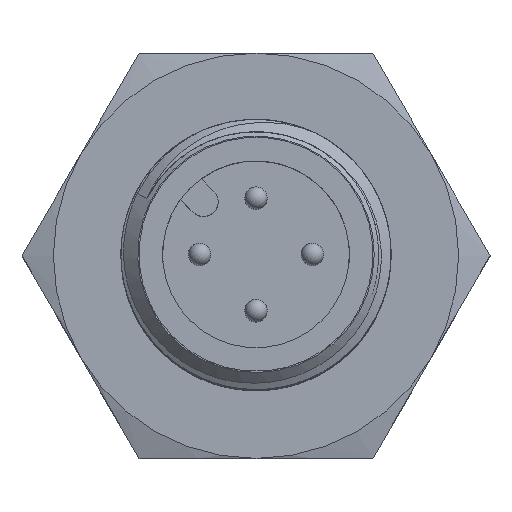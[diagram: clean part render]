
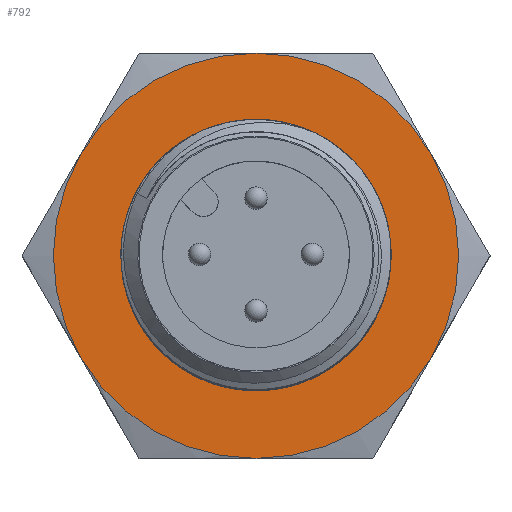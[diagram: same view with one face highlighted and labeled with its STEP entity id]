
A CAD part, top view. The second image highlights one B-rep face of the part: STEP entity #792.
In plain terms, the highlighted planar face has unit normal (0, 0, 1).
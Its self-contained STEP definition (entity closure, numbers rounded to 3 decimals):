
#792=ADVANCED_FACE('',(#1005),#978,.T.);
#978=PLANE('',#3244);
#1005=FACE_OUTER_BOUND('',#1186,.T.);
#1186=EDGE_LOOP('',(#1380,#1381,#1382,#1383,#1384,#1385));
#1380=ORIENTED_EDGE('',*,*,#2681,.F.);
#1381=ORIENTED_EDGE('',*,*,#2682,.F.);
#1382=ORIENTED_EDGE('',*,*,#2683,.F.);
#1383=ORIENTED_EDGE('',*,*,#2684,.F.);
#1384=ORIENTED_EDGE('',*,*,#2685,.F.);
#1385=ORIENTED_EDGE('',*,*,#2686,.F.);
#2362=VERTEX_POINT('',#3969);
#2363=VERTEX_POINT('',#3970);
#2364=VERTEX_POINT('',#3972);
#2365=VERTEX_POINT('',#3974);
#2366=VERTEX_POINT('',#3976);
#2367=VERTEX_POINT('',#3978);
#2681=EDGE_CURVE('',#2362,#2363,#3172,.T.);
#2682=EDGE_CURVE('',#2364,#2362,#3173,.T.);
#2683=EDGE_CURVE('',#2365,#2364,#3174,.T.);
#2684=EDGE_CURVE('',#2366,#2365,#3175,.T.);
#2685=EDGE_CURVE('',#2367,#2366,#3176,.T.);
#2686=EDGE_CURVE('',#2363,#2367,#3177,.T.);
#3172=CIRCLE('',#3238,9.);
#3173=CIRCLE('',#3239,9.);
#3174=CIRCLE('',#3240,9.);
#3175=CIRCLE('',#3241,9.);
#3176=CIRCLE('',#3242,9.);
#3177=CIRCLE('',#3243,9.);
#3238=AXIS2_PLACEMENT_3D('',#3968,#3435,#3436);
#3239=AXIS2_PLACEMENT_3D('',#3971,#3437,#3438);
#3240=AXIS2_PLACEMENT_3D('',#3973,#3439,#3440);
#3241=AXIS2_PLACEMENT_3D('',#3975,#3441,#3442);
#3242=AXIS2_PLACEMENT_3D('',#3977,#3443,#3444);
#3243=AXIS2_PLACEMENT_3D('',#3979,#3445,#3446);
#3244=AXIS2_PLACEMENT_3D('',#3980,#3447,#3448);
#3435=DIRECTION('',(0.,0.,-1.));
#3436=DIRECTION('',(0.,1.,0.));
#3437=DIRECTION('',(0.,0.,-1.));
#3438=DIRECTION('',(0.,1.,0.));
#3439=DIRECTION('',(0.,0.,-1.));
#3440=DIRECTION('',(0.,1.,0.));
#3441=DIRECTION('',(0.,0.,-1.));
#3442=DIRECTION('',(0.,1.,0.));
#3443=DIRECTION('',(0.,0.,-1.));
#3444=DIRECTION('',(0.,1.,0.));
#3445=DIRECTION('',(0.,0.,-1.));
#3446=DIRECTION('',(0.,1.,0.));
#3447=DIRECTION('',(0.,0.,1.));
#3448=DIRECTION('',(0.,-1.,0.));
#3968=CARTESIAN_POINT('',(0.,0.,19.));
#3969=CARTESIAN_POINT('',(0.,9.,19.));
#3970=CARTESIAN_POINT('',(7.794,4.5,19.));
#3971=CARTESIAN_POINT('',(0.,0.,19.));
#3972=CARTESIAN_POINT('',(-7.794,4.5,19.));
#3973=CARTESIAN_POINT('',(0.,0.,19.));
#3974=CARTESIAN_POINT('',(-7.794,-4.5,19.));
#3975=CARTESIAN_POINT('',(0.,0.,19.));
#3976=CARTESIAN_POINT('',(0.,-9.,19.));
#3977=CARTESIAN_POINT('',(0.,0.,19.));
#3978=CARTESIAN_POINT('',(7.794,-4.5,19.));
#3979=CARTESIAN_POINT('',(0.,0.,19.));
#3980=CARTESIAN_POINT('',(9.,0.,19.));
